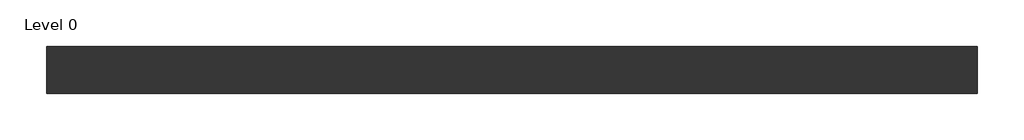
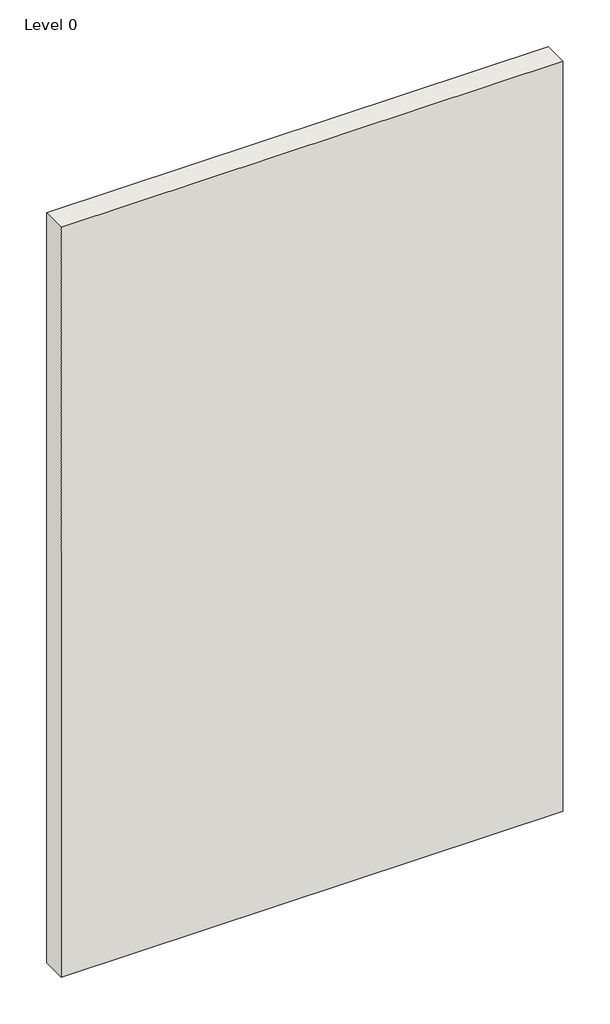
# One storey: 1 wall.
"""IFC4 building model written with IfcOpenShell, lengths in millimetres."""

from ifc_helpers import new_model, si_unit, origin, origin_with_axes, place, context, project, spatial, polyline, outline, extrude, element, save

model = new_model("IFC4")

# Units and contexts
model_context = context("Model", 3, world=origin())
ifc_project = project(units=[si_unit("LENGTHUNIT", "METRE", prefix="MILLI")], contexts=[model_context])

# Site, building, storey
site = spatial("IfcSite", under=ifc_project)
building = spatial("IfcBuilding", under=site)
storey = spatial("IfcBuildingStorey", under=building, Name="Level 0", Elevation=0.0)

# Wall
placement = place(None, origin())
element("IfcWall", 1, ObjectType="A046006 - GypWall Classic", at=placement, inside=storey, context=model_context, shape_type="SweptSolid", body=[
    extrude(outline(polyline([(1155.997948, 476.7669953), (-1944.002052, 476.7669953), (-1944.002052, 633.7669953), (1155.997948, 633.7669953), (1155.997948, 476.7669953)])), origin_with_axes(), (0.0, 0.0, 1.0), 4900.0),
])

save(model, "model.ifc")
